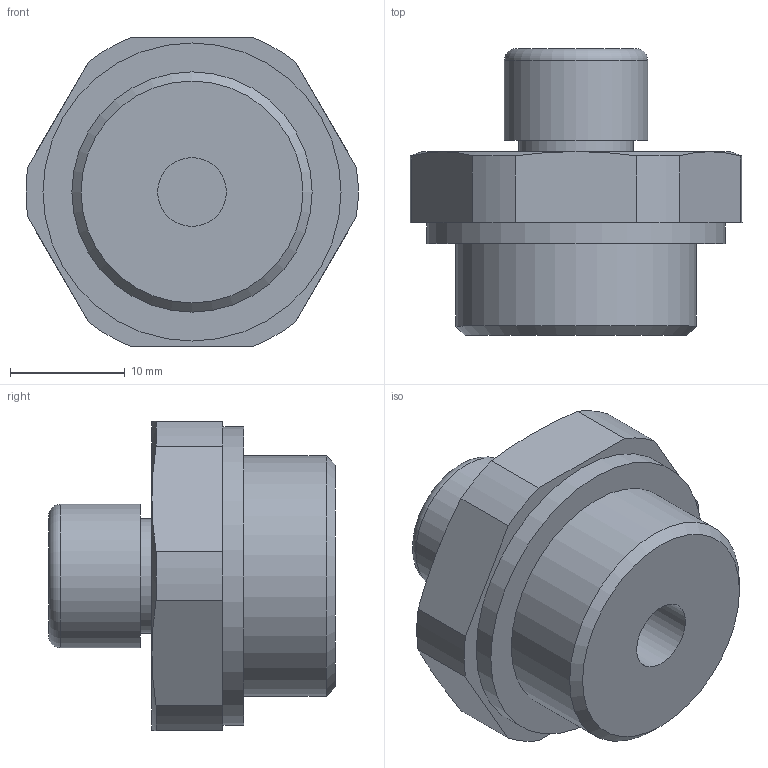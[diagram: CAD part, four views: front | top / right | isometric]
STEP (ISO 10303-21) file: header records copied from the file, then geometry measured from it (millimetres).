
FILE_DESCRIPTION( ( 'STEP AP203' ), '1' );
FILE_NAME( 'C:/Temp/Ganter_Step_05_03_2020/data/3_5/gn883/Breather valve GN 883-G1_2-20-B-MS.stp', '2020-03-12T13:42:50', ( 'License CC BY-ND 4.0' ), ( 'CADENAS' ), ' ', 'PARTsolutions', ' ' );
FILE_SCHEMA( ( 'CONFIG_CONTROL_DESIGN' ) );
Length unit declared in the file: millimetre
Products named in the file (1): _Breather valve GN 883-G1/2-20-B-MS
Bounding box: 28.96 x 25 x 27 mm (x, y, z)
Volume: 8210.7 mm3; surface area: 3075.3 mm2
Topology: 1 solids, 1 shells, 32 faces, 67 edges, 42 vertices
Faces by surface type: plane 13, cylinder 11, cone 7, torus 1
Full cylindrical faces by diameter (mm): 6 x1, 10 x1, 12.5 x1, 20.955 x1, 26 x1
Entity records: 882 total; most frequent: CARTESIAN_POINT 175, DIRECTION 144, ORIENTED_EDGE 120, AXIS2_PLACEMENT_3D 63, EDGE_CURVE 60, EDGE_LOOP 44, VERTEX_POINT 42, FACE_OUTER_BOUND 38
